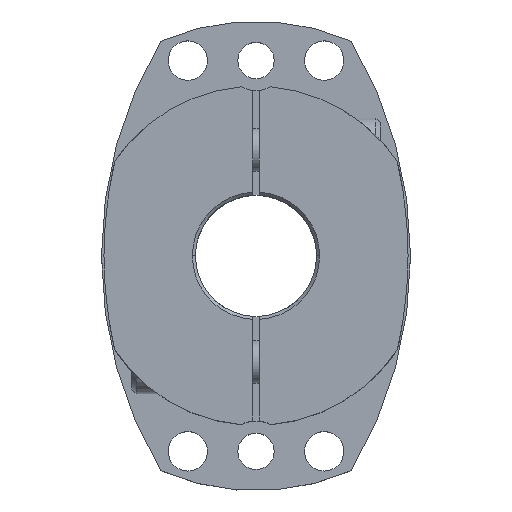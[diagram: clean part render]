
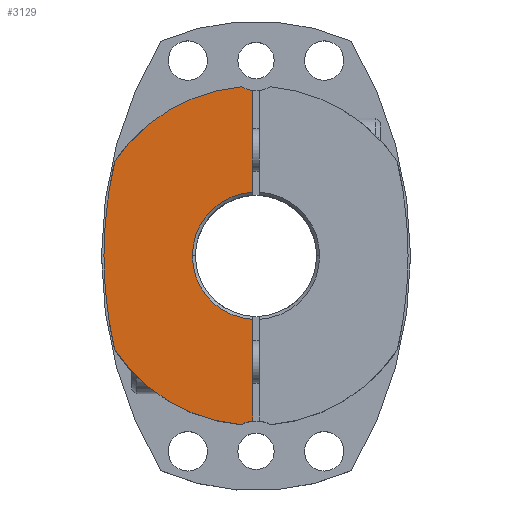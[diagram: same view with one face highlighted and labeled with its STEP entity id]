
A CAD part, top view. The second image highlights one B-rep face of the part: STEP entity #3129.
In plain terms, the highlighted planar face has unit normal (0, 0, 1).
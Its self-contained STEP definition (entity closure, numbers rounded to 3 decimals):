
#414=CARTESIAN_POINT('',(-21.,0.,42.5));
#415=VERTEX_POINT('',#414);
#422=CARTESIAN_POINT('',(-1.,-20.976,42.5));
#423=VERTEX_POINT('',#422);
#424=CARTESIAN_POINT('',(0.,0.,42.5));
#425=DIRECTION('',(0.0,0.0,1.0));
#426=DIRECTION('',(1.0,0.0,0.0));
#427=AXIS2_PLACEMENT_3D('',#424,#425,#426);
#428=CIRCLE('',#427,21.0);
#429=EDGE_CURVE('',#415,#423,#428,.T.);
#936=CARTESIAN_POINT('',(-50.2,0.,42.5));
#937=VERTEX_POINT('',#936);
#946=CARTESIAN_POINT('',(-46.66,30.965,42.5));
#947=VERTEX_POINT('',#946);
#948=CARTESIAN_POINT('',(87.,0.,42.5));
#949=DIRECTION('',(0.0,0.0,-1.0));
#950=DIRECTION('',(1.0,0.0,0.0));
#951=AXIS2_PLACEMENT_3D('',#948,#949,#950);
#952=CIRCLE('',#951,137.2);
#953=EDGE_CURVE('',#937,#947,#952,.T.);
#2266=CARTESIAN_POINT('',(-46.66,-30.965,42.5));
#2267=VERTEX_POINT('',#2266);
#2274=CARTESIAN_POINT('',(87.,0.,42.5));
#2275=DIRECTION('',(0.0,0.0,-1.0));
#2276=DIRECTION('',(1.0,0.0,0.0));
#2277=AXIS2_PLACEMENT_3D('',#2274,#2275,#2276);
#2278=CIRCLE('',#2277,137.2);
#2279=EDGE_CURVE('',#2267,#937,#2278,.T.);
#2595=CARTESIAN_POINT('',(-4.904,55.785,42.5));
#2596=VERTEX_POINT('',#2595);
#2597=CARTESIAN_POINT('',(0.,0.,42.5));
#2598=DIRECTION('',(0.0,0.0,-1.0));
#2599=DIRECTION('',(1.0,0.0,0.0));
#2600=AXIS2_PLACEMENT_3D('',#2597,#2598,#2599);
#2601=CIRCLE('',#2600,56.);
#2602=EDGE_CURVE('',#947,#2596,#2601,.T.);
#2761=CARTESIAN_POINT('',(-1.,54.55,42.5));
#2762=VERTEX_POINT('',#2761);
#2769=CARTESIAN_POINT('',(-1.,20.976,42.5));
#2770=VERTEX_POINT('',#2769);
#2771=CARTESIAN_POINT('',(-1.,20.976,42.5));
#2772=DIRECTION('',(0.0,1.0,0.0));
#2773=VECTOR('',#2772,33.574);
#2774=LINE('',#2771,#2773);
#2775=EDGE_CURVE('',#2770,#2762,#2774,.T.);
#2863=CARTESIAN_POINT('',(-1.,-54.55,42.5));
#2864=VERTEX_POINT('',#2863);
#2865=CARTESIAN_POINT('',(-1.,-54.55,42.5));
#2866=DIRECTION('',(0.0,1.0,0.0));
#2867=VECTOR('',#2866,33.574);
#2868=LINE('',#2865,#2867);
#2869=EDGE_CURVE('',#2864,#423,#2868,.T.);
#2950=CARTESIAN_POINT('',(-4.904,-55.785,42.5));
#2951=VERTEX_POINT('',#2950);
#2952=CARTESIAN_POINT('',(0.,-64.5,42.5));
#2953=DIRECTION('',(0.0,0.0,-1.0));
#2954=DIRECTION('',(1.0,0.0,0.0));
#2955=AXIS2_PLACEMENT_3D('',#2952,#2953,#2954);
#2956=CIRCLE('',#2955,10.0);
#2957=EDGE_CURVE('',#2951,#2864,#2956,.T.);
#3094=CARTESIAN_POINT('',(0.,0.,42.5));
#3095=DIRECTION('',(0.0,0.0,1.0));
#3096=DIRECTION('',(1.0,0.0,0.0));
#3097=AXIS2_PLACEMENT_3D('',#3094,#3095,#3096);
#3098=PLANE('',#3097);
#3099=ORIENTED_EDGE('',*,*,#2869,.T.);
#3100=ORIENTED_EDGE('',*,*,#429,.F.);
#3101=CARTESIAN_POINT('',(0.,0.,42.5));
#3102=DIRECTION('',(0.0,0.0,1.0));
#3103=DIRECTION('',(1.0,0.0,0.0));
#3104=AXIS2_PLACEMENT_3D('',#3101,#3102,#3103);
#3105=CIRCLE('',#3104,21.0);
#3106=EDGE_CURVE('',#2770,#415,#3105,.T.);
#3107=ORIENTED_EDGE('',*,*,#3106,.F.);
#3108=ORIENTED_EDGE('',*,*,#2775,.T.);
#3109=CARTESIAN_POINT('',(0.,64.5,42.5));
#3110=DIRECTION('',(0.0,0.0,-1.0));
#3111=DIRECTION('',(1.0,0.0,0.0));
#3112=AXIS2_PLACEMENT_3D('',#3109,#3110,#3111);
#3113=CIRCLE('',#3112,10.0);
#3114=EDGE_CURVE('',#2762,#2596,#3113,.T.);
#3115=ORIENTED_EDGE('',*,*,#3114,.T.);
#3116=ORIENTED_EDGE('',*,*,#2602,.F.);
#3117=ORIENTED_EDGE('',*,*,#953,.F.);
#3118=ORIENTED_EDGE('',*,*,#2279,.F.);
#3119=CARTESIAN_POINT('',(0.,0.0,42.5));
#3120=DIRECTION('',(0.0,0.0,-1.0));
#3121=DIRECTION('',(1.0,0.0,0.0));
#3122=AXIS2_PLACEMENT_3D('',#3119,#3120,#3121);
#3123=CIRCLE('',#3122,56.);
#3124=EDGE_CURVE('',#2951,#2267,#3123,.T.);
#3125=ORIENTED_EDGE('',*,*,#3124,.F.);
#3126=ORIENTED_EDGE('',*,*,#2957,.T.);
#3127=EDGE_LOOP('',(#3099,#3100,#3107,#3108,#3115,#3116,#3117,#3118,#3125,#3126));
#3128=FACE_OUTER_BOUND('',#3127,.T.);
#3129=ADVANCED_FACE('',(#3128),#3098,.T.);
